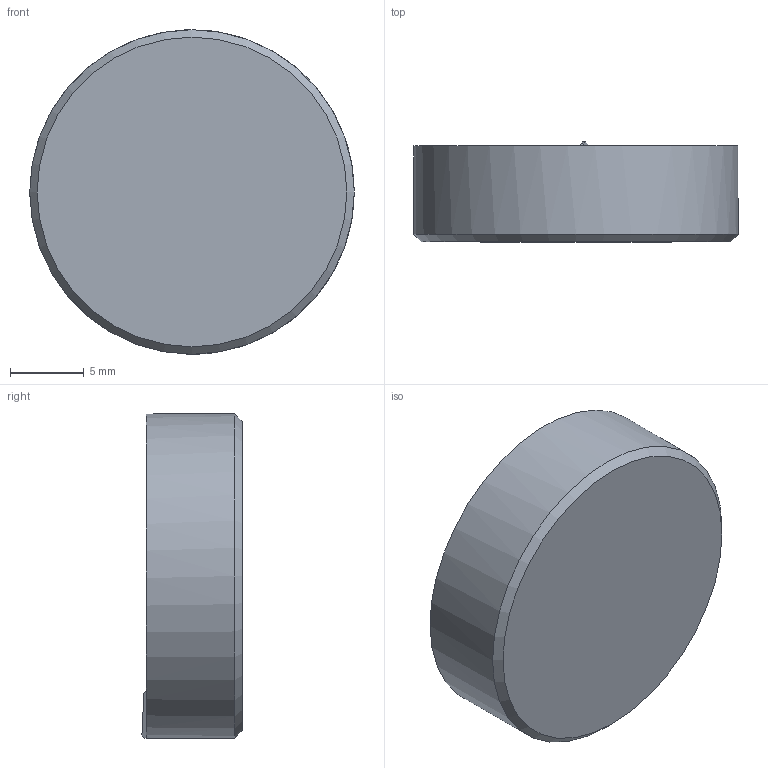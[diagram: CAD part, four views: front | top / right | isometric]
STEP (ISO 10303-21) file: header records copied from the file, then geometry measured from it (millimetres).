
FILE_DESCRIPTION( ( 'STEP AP203' ), '1' );
FILE_NAME( 'C:/Temp/Ganter_Step_05_03_2020/data/3_2/gn187_4/gn187_4_st/Serrated locking plate GN 187.4-22-60-E-ST.stp', '2020-03-13T05:25:49', ( 'License CC BY-ND 4.0' ), ( 'CADENAS' ), ' ', 'PARTsolutions', ' ' );
FILE_SCHEMA( ( 'CONFIG_CONTROL_DESIGN' ) );
Length unit declared in the file: millimetre
Products named in the file (1): _Serrated locking plate GN 187.4-22-60-E-ST
Bounding box: 22 x 6.79 x 22 mm (x, y, z)
Volume: 2273 mm3; surface area: 1240.9 mm2
Topology: 1 solids, 1 shells, 15 faces, 38 edges, 25 vertices
Faces by surface type: plane 7, cone 4, cylinder 4
Full cylindrical faces by diameter (mm): 15.5 x1, 22 x1
Entity records: 554 total; most frequent: CARTESIAN_POINT 174, DIRECTION 72, ORIENTED_EDGE 66, AXIS2_PLACEMENT_3D 33, EDGE_CURVE 33, VERTEX_POINT 23, EDGE_LOOP 18, FACE_OUTER_BOUND 17
